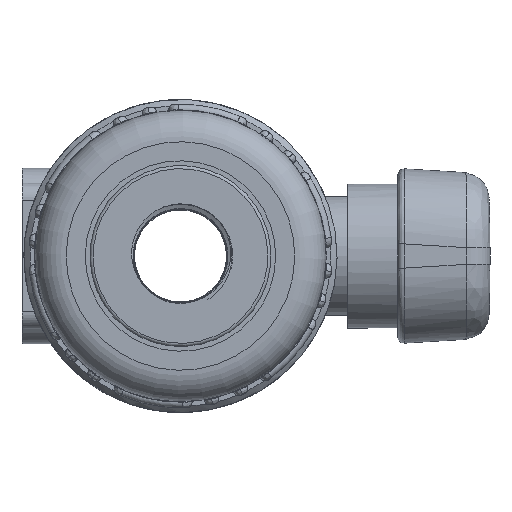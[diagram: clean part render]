
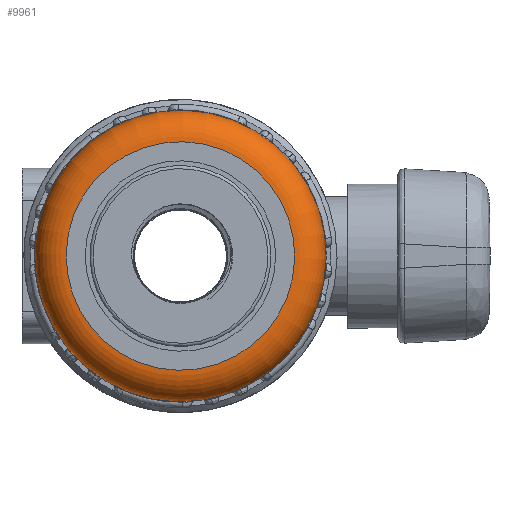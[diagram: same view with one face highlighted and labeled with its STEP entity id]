
A CAD part, front view. The second image highlights one B-rep face of the part: STEP entity #9961.
In plain terms, the highlighted toroidal (fillet/blend) face has major radius 18.25 mm and minor radius 5 mm.
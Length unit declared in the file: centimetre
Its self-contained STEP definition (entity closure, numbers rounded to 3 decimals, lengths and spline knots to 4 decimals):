
#1952=TOROIDAL_SURFACE('',#10652,1.825,0.5);
#1974=FACE_BOUND('',#2830,.T.);
#2238=FACE_OUTER_BOUND('',#2829,.T.);
#2829=EDGE_LOOP('',(#7081));
#2830=EDGE_LOOP('',(#7082));
#3431=CIRCLE('',#10650,1.825);
#3433=CIRCLE('',#10653,2.325);
#4060=VERTEX_POINT('',#40178);
#4062=VERTEX_POINT('',#40183);
#5188=EDGE_CURVE('',#4060,#4060,#3431,.T.);
#5190=EDGE_CURVE('',#4062,#4062,#3433,.T.);
#7081=ORIENTED_EDGE('',*,*,#5190,.F.);
#7082=ORIENTED_EDGE('',*,*,#5188,.T.);
#9961=ADVANCED_FACE('',(#2238,#1974),#1952,.T.);
#10650=AXIS2_PLACEMENT_3D('',#40179,#12083,#12084);
#10652=AXIS2_PLACEMENT_3D('',#40182,#12087,#12088);
#10653=AXIS2_PLACEMENT_3D('',#40184,#12089,#12090);
#12083=DIRECTION('center_axis',(0.,1.,0.));
#12084=DIRECTION('ref_axis',(-0.946,0.,-0.324));
#12087=DIRECTION('center_axis',(0.,1.,0.));
#12088=DIRECTION('ref_axis',(0.324,0.,-0.946));
#12089=DIRECTION('center_axis',(0.,1.,0.));
#12090=DIRECTION('ref_axis',(-0.946,0.,-0.324));
#40178=CARTESIAN_POINT('',(1.7264,-3.06,0.5917));
#40179=CARTESIAN_POINT('Origin',(0.,-3.06,0.));
#40182=CARTESIAN_POINT('Origin',(0.,-2.56,0.));
#40183=CARTESIAN_POINT('',(2.1994,-2.56,0.7538));
#40184=CARTESIAN_POINT('Origin',(0.,-2.56,0.));
